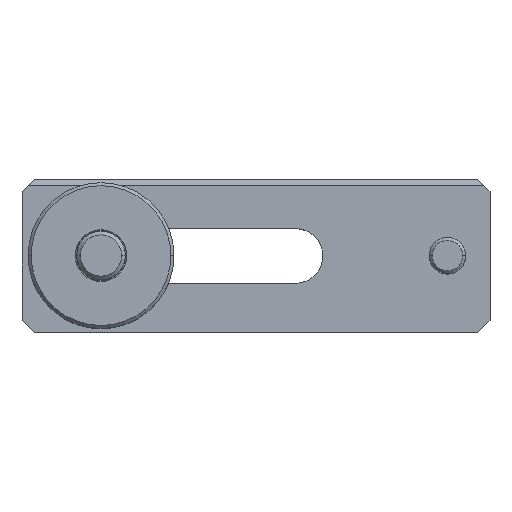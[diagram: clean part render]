
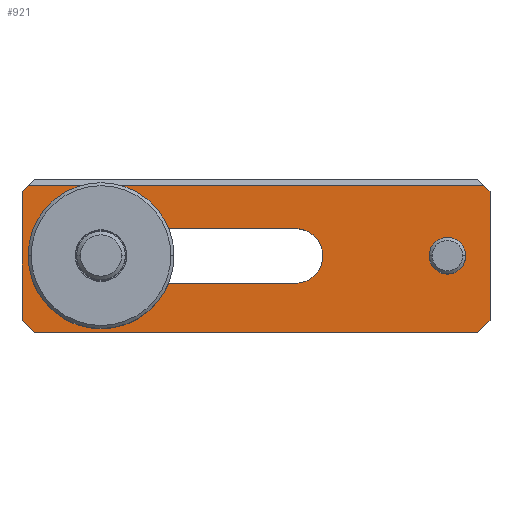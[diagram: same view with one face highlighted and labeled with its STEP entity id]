
A CAD part, top view. The second image highlights one B-rep face of the part: STEP entity #921.
In plain terms, the highlighted planar face has unit normal (0, 0, 1).
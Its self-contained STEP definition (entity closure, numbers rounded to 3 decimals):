
#89=CARTESIAN_POINT('',(31.5,0.,5.));
#90=DIRECTION('',(0.,0.,1.));
#91=DIRECTION('',(-1.,0.,0.));
#92=AXIS2_PLACEMENT_3D('',#89,#90,#91);
#94=CARTESIAN_POINT('',(31.5,0.,5.));
#95=DIRECTION('',(0.,0.,1.));
#96=DIRECTION('',(1.,0.,0.));
#97=AXIS2_PLACEMENT_3D('',#94,#95,#96);
#99=CARTESIAN_POINT('',(-25.5,0.,5.));
#100=DIRECTION('',(0.,0.,1.));
#101=DIRECTION('',(0.92,0.391,0.));
#102=AXIS2_PLACEMENT_3D('',#99,#100,#101);
#104=CARTESIAN_POINT('',(-25.5,0.,5.));
#105=DIRECTION('',(0.,0.,1.));
#106=DIRECTION('',(-1.,0.,0.));
#107=AXIS2_PLACEMENT_3D('',#104,#105,#106);
#109=CARTESIAN_POINT('',(6.5,0.,5.));
#110=DIRECTION('',(0.,0.,-1.));
#111=DIRECTION('',(1.,0.,0.));
#112=AXIS2_PLACEMENT_3D('',#109,#110,#111);
#114=CARTESIAN_POINT('',(6.5,0.,5.));
#115=DIRECTION('',(0.,0.,-1.));
#116=DIRECTION('',(0.,1.,0.));
#117=AXIS2_PLACEMENT_3D('',#114,#115,#116);
#119=DIRECTION('',(-1.,0.,0.));
#120=VECTOR('',#119,75.);
#121=CARTESIAN_POINT('',(37.5,11.6,5.));
#122=LINE('',#121,#120);
#123=DIRECTION('',(-0.707,0.707,0.));
#124=VECTOR('',#123,1.414);
#125=CARTESIAN_POINT('',(38.5,10.6,5.));
#126=LINE('',#125,#124);
#127=DIRECTION('',(0.,1.,0.));
#128=VECTOR('',#127,21.2);
#129=CARTESIAN_POINT('',(38.5,-10.6,5.));
#130=LINE('',#129,#128);
#131=DIRECTION('',(0.707,0.707,0.));
#132=VECTOR('',#131,2.828);
#133=CARTESIAN_POINT('',(36.5,-12.6,5.));
#134=LINE('',#133,#132);
#135=DIRECTION('',(1.,0.,0.));
#136=VECTOR('',#135,73.);
#137=CARTESIAN_POINT('',(-36.5,-12.6,5.));
#138=LINE('',#137,#136);
#139=DIRECTION('',(0.707,-0.707,0.));
#140=VECTOR('',#139,2.828);
#141=CARTESIAN_POINT('',(-38.5,-10.6,5.));
#142=LINE('',#141,#140);
#143=DIRECTION('',(0.,-1.,0.));
#144=VECTOR('',#143,21.2);
#145=CARTESIAN_POINT('',(-38.5,10.6,5.));
#146=LINE('',#145,#144);
#147=DIRECTION('',(-0.707,-0.707,0.));
#148=VECTOR('',#147,1.414);
#149=CARTESIAN_POINT('',(-37.5,11.6,5.));
#150=LINE('',#149,#148);
#209=DIRECTION('',(1.,0.,0.));
#210=VECTOR('',#209,21.417);
#211=CARTESIAN_POINT('',(-14.917,-4.5,5.));
#212=LINE('',#211,#210);
#230=DIRECTION('',(-1.,0.,0.));
#231=VECTOR('',#230,21.417);
#232=CARTESIAN_POINT('',(6.5,4.5,5.));
#233=LINE('',#232,#231);
#617=CARTESIAN_POINT('',(-38.5,-10.6,5.));
#618=VERTEX_POINT('',#617);
#619=CARTESIAN_POINT('',(-36.5,-12.6,5.));
#620=VERTEX_POINT('',#619);
#621=CARTESIAN_POINT('',(-38.5,10.6,5.));
#622=VERTEX_POINT('',#621);
#623=CARTESIAN_POINT('',(38.5,10.6,5.));
#624=VERTEX_POINT('',#623);
#625=CARTESIAN_POINT('',(38.5,-10.6,5.));
#626=VERTEX_POINT('',#625);
#627=CARTESIAN_POINT('',(36.5,-12.6,5.));
#628=VERTEX_POINT('',#627);
#629=CARTESIAN_POINT('',(6.5,4.5,5.));
#630=CARTESIAN_POINT('',(11.,0.,5.));
#631=VERTEX_POINT('',#629);
#632=VERTEX_POINT('',#630);
#633=CARTESIAN_POINT('',(6.5,-4.5,5.));
#634=VERTEX_POINT('',#633);
#709=CARTESIAN_POINT('',(28.5,0.,5.));
#710=CARTESIAN_POINT('',(34.5,0.,5.));
#711=VERTEX_POINT('',#709);
#712=VERTEX_POINT('',#710);
#713=CARTESIAN_POINT('',(-14.917,4.5,5.));
#714=CARTESIAN_POINT('',(-37.,0.,5.));
#715=VERTEX_POINT('',#713);
#716=VERTEX_POINT('',#714);
#717=CARTESIAN_POINT('',(-14.917,-4.5,5.));
#718=VERTEX_POINT('',#717);
#723=CARTESIAN_POINT('',(-37.5,11.6,5.));
#725=VERTEX_POINT('',#723);
#729=CARTESIAN_POINT('',(37.5,11.6,5.));
#730=VERTEX_POINT('',#729);
#879=CARTESIAN_POINT('',(0.,0.,5.));
#880=DIRECTION('',(0.,0.,1.));
#881=DIRECTION('',(1.,0.,0.));
#882=AXIS2_PLACEMENT_3D('',#879,#880,#881);
#883=PLANE('',#882);
#885=ORIENTED_EDGE('',*,*,#884,.F.);
#887=ORIENTED_EDGE('',*,*,#886,.F.);
#889=ORIENTED_EDGE('',*,*,#888,.F.);
#891=ORIENTED_EDGE('',*,*,#890,.F.);
#893=ORIENTED_EDGE('',*,*,#892,.F.);
#895=ORIENTED_EDGE('',*,*,#894,.F.);
#897=ORIENTED_EDGE('',*,*,#896,.F.);
#899=ORIENTED_EDGE('',*,*,#898,.F.);
#900=EDGE_LOOP('',(#885,#887,#889,#891,#893,#895,#897,#899));
#901=FACE_OUTER_BOUND('',#900,.F.);
#903=ORIENTED_EDGE('',*,*,#902,.T.);
#904=ORIENTED_EDGE('',*,*,#868,.T.);
#906=ORIENTED_EDGE('',*,*,#905,.T.);
#908=ORIENTED_EDGE('',*,*,#907,.F.);
#910=ORIENTED_EDGE('',*,*,#909,.F.);
#912=ORIENTED_EDGE('',*,*,#911,.T.);
#913=EDGE_LOOP('',(#903,#904,#906,#908,#910,#912));
#914=FACE_BOUND('',#913,.F.);
#916=ORIENTED_EDGE('',*,*,#915,.T.);
#918=ORIENTED_EDGE('',*,*,#917,.T.);
#919=EDGE_LOOP('',(#916,#918));
#920=FACE_BOUND('',#919,.F.);
#921=ADVANCED_FACE('',(#901,#914,#920),#883,.T.);
#93=CIRCLE('',#92,3.);
#98=CIRCLE('',#97,3.);
#103=CIRCLE('',#102,11.5);
#108=CIRCLE('',#107,11.5);
#113=CIRCLE('',#112,4.5);
#118=CIRCLE('',#117,4.5);
#868=EDGE_CURVE('',#716,#718,#108,.T.);
#884=EDGE_CURVE('',#730,#725,#122,.T.);
#886=EDGE_CURVE('',#624,#730,#126,.T.);
#888=EDGE_CURVE('',#626,#624,#130,.T.);
#890=EDGE_CURVE('',#628,#626,#134,.T.);
#892=EDGE_CURVE('',#620,#628,#138,.T.);
#894=EDGE_CURVE('',#618,#620,#142,.T.);
#896=EDGE_CURVE('',#622,#618,#146,.T.);
#898=EDGE_CURVE('',#725,#622,#150,.T.);
#902=EDGE_CURVE('',#715,#716,#103,.T.);
#905=EDGE_CURVE('',#718,#634,#212,.T.);
#907=EDGE_CURVE('',#632,#634,#113,.T.);
#909=EDGE_CURVE('',#631,#632,#118,.T.);
#911=EDGE_CURVE('',#631,#715,#233,.T.);
#915=EDGE_CURVE('',#711,#712,#93,.T.);
#917=EDGE_CURVE('',#712,#711,#98,.T.);
